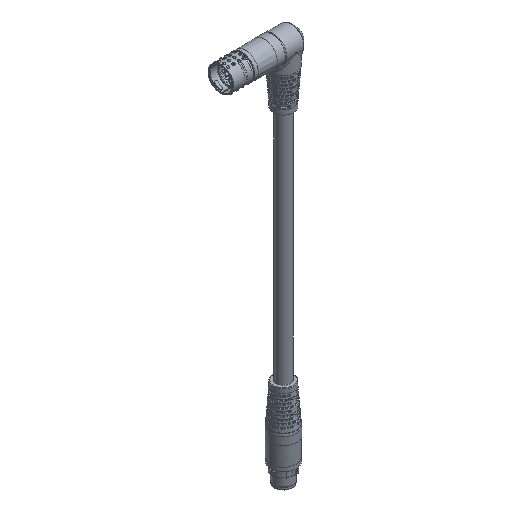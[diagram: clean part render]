
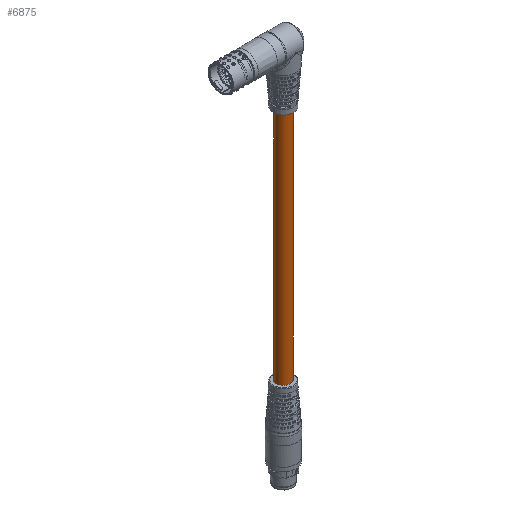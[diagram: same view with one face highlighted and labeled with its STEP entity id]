
A CAD part, isometric view. The second image highlights one B-rep face of the part: STEP entity #6875.
In plain terms, the highlighted cylindrical face has radius 5.8 mm (diameter 11.6 mm), a full revolution.
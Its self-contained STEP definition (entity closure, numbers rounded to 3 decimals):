
#1135 = ORIENTED_EDGE ( 'NONE', *, *, #52922, .F. ) ;
#5730 = DIRECTION ( 'NONE',  ( 0.48, 0.877, 0. ) ) ;
#6746 = AXIS2_PLACEMENT_3D ( 'NONE', #26966, #9513, #5730 ) ;
#6765 = CARTESIAN_POINT ( 'NONE',  ( -43.259, 42.123, -257.807 ) ) ;
#6875 = ADVANCED_FACE ( 'NONE', ( #43077, #22666 ), #18637, .T. ) ;
#7299 = DIRECTION ( 'NONE',  ( 0.48, 0.877, 0. ) ) ;
#9513 = DIRECTION ( 'NONE',  ( 0., 0., 1. ) ) ;
#10949 = CARTESIAN_POINT ( 'NONE',  ( -40.474, 47.211, -57.807 ) ) ;
#18482 = AXIS2_PLACEMENT_3D ( 'NONE', #36066, #20468, #7299 ) ;
#18637 = CYLINDRICAL_SURFACE ( 'NONE', #6746, 5.8 ) ;
#20170 = CIRCLE ( 'NONE', #37306, 5.8 ) ;
#20468 = DIRECTION ( 'NONE',  ( 0., 0., 1. ) ) ;
#22666 = FACE_OUTER_BOUND ( 'NONE', #23318, .T. ) ;
#23318 = EDGE_LOOP ( 'NONE', ( #1135 ) ) ;
#25710 = ORIENTED_EDGE ( 'NONE', *, *, #51144, .T. ) ;
#26966 = CARTESIAN_POINT ( 'NONE',  ( -43.259, 42.123, -257.807 ) ) ;
#31363 = CARTESIAN_POINT ( 'NONE',  ( -40.474, 47.211, -257.807 ) ) ;
#35138 = EDGE_LOOP ( 'NONE', ( #25710 ) ) ;
#36066 = CARTESIAN_POINT ( 'NONE',  ( -43.259, 42.123, -57.807 ) ) ;
#36319 = DIRECTION ( 'NONE',  ( 0.48, 0.877, 0. ) ) ;
#37306 = AXIS2_PLACEMENT_3D ( 'NONE', #6765, #47903, #36319 ) ;
#39917 = CIRCLE ( 'NONE', #18482, 5.8 ) ;
#43077 = FACE_OUTER_BOUND ( 'NONE', #35138, .T. ) ;
#47775 = VERTEX_POINT ( 'NONE', #10949 ) ;
#47903 = DIRECTION ( 'NONE',  ( 0., 0., 1. ) ) ;
#51016 = VERTEX_POINT ( 'NONE', #31363 ) ;
#51144 = EDGE_CURVE ( 'NONE', #51016, #51016, #20170, .T. ) ;
#52922 = EDGE_CURVE ( 'NONE', #47775, #47775, #39917, .T. ) ;
